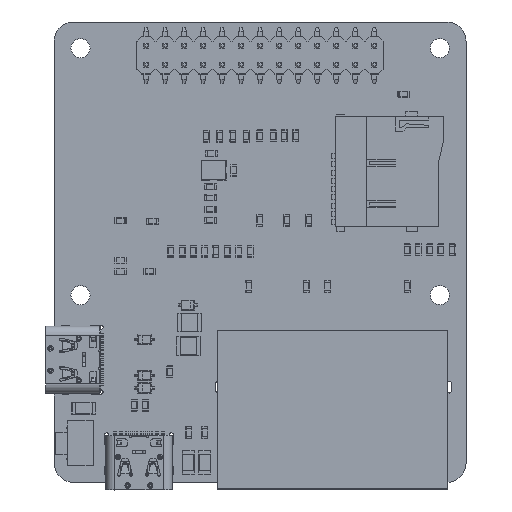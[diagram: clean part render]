
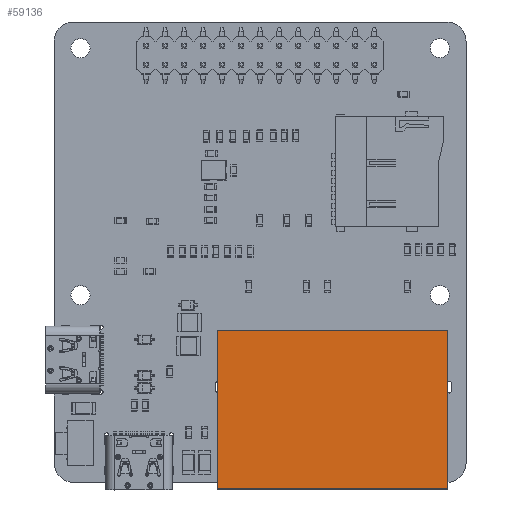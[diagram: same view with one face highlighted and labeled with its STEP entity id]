
A CAD part, top view. The second image highlights one B-rep face of the part: STEP entity #59136.
In plain terms, the highlighted planar face has unit normal (0, 0, 1).
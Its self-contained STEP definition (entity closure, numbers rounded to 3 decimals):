
#59007 = VERTEX_POINT('',#59008);
#59008 = CARTESIAN_POINT('',(15.4,10.6,13.5));
#59014 = EDGE_CURVE('',#59015,#59007,#59017,.T.);
#59015 = VERTEX_POINT('',#59016);
#59016 = CARTESIAN_POINT('',(15.4,-10.6,13.5));
#59017 = LINE('',#59018,#59019);
#59018 = CARTESIAN_POINT('',(15.4,10.6,13.5));
#59019 = VECTOR('',#59020,1.);
#59020 = DIRECTION('',(0.,1.,0.));
#59045 = EDGE_CURVE('',#59046,#59015,#59048,.T.);
#59046 = VERTEX_POINT('',#59047);
#59047 = CARTESIAN_POINT('',(-15.4,-10.6,13.5));
#59048 = LINE('',#59049,#59050);
#59049 = CARTESIAN_POINT('',(15.4,-10.6,13.5));
#59050 = VECTOR('',#59051,1.);
#59051 = DIRECTION('',(1.,0.,0.));
#59096 = EDGE_CURVE('',#59097,#59046,#59099,.T.);
#59097 = VERTEX_POINT('',#59098);
#59098 = CARTESIAN_POINT('',(-15.4,10.6,13.5));
#59099 = LINE('',#59100,#59101);
#59100 = CARTESIAN_POINT('',(-15.4,-10.6,13.5));
#59101 = VECTOR('',#59102,1.);
#59102 = DIRECTION('',(0.,-1.,0.));
#59125 = EDGE_CURVE('',#59007,#59097,#59126,.T.);
#59126 = LINE('',#59127,#59128);
#59127 = CARTESIAN_POINT('',(-15.4,10.6,13.5));
#59128 = VECTOR('',#59129,1.);
#59129 = DIRECTION('',(-1.,0.,0.));
#59136 = ADVANCED_FACE('',(#59137),#59143,.T.);
#59137 = FACE_BOUND('',#59138,.T.);
#59138 = EDGE_LOOP('',(#59139,#59140,#59141,#59142));
#59139 = ORIENTED_EDGE('',*,*,#59125,.T.);
#59140 = ORIENTED_EDGE('',*,*,#59096,.T.);
#59141 = ORIENTED_EDGE('',*,*,#59045,.T.);
#59142 = ORIENTED_EDGE('',*,*,#59014,.T.);
#59143 = PLANE('',#59144);
#59144 = AXIS2_PLACEMENT_3D('',#59145,#59146,#59147);
#59145 = CARTESIAN_POINT('',(0.,0.,13.5
    ));
#59146 = DIRECTION('',(0.,0.,1.));
#59147 = DIRECTION('',(1.,0.,-0.));
